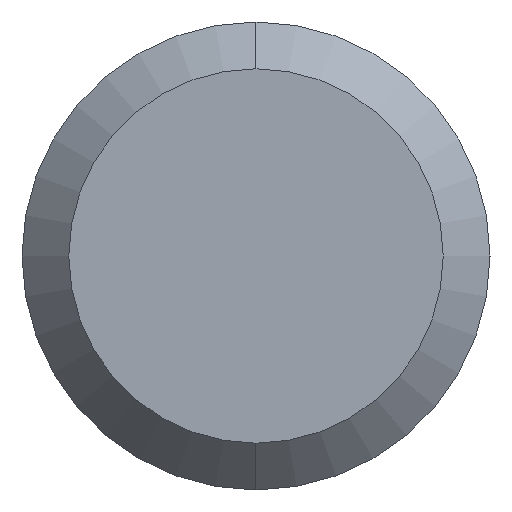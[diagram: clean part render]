
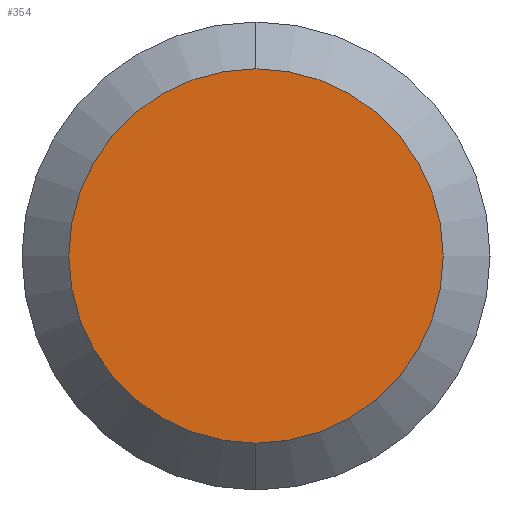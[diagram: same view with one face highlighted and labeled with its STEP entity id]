
A CAD part, left-side view. The second image highlights one B-rep face of the part: STEP entity #354.
In plain terms, the highlighted planar face has unit normal (-1, 0, 0).
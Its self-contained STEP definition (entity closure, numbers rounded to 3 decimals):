
#17 = EDGE_CURVE ( 'NONE', #161, #223, #383, .T. ) ;
#43 = CARTESIAN_POINT ( 'NONE',  ( 0., 0., 1.6 ) ) ;
#51 = FACE_OUTER_BOUND ( 'NONE', #118, .T. ) ;
#69 = ORIENTED_EDGE ( 'NONE', *, *, #485, .T. ) ;
#87 = DIRECTION ( 'NONE',  ( 0., 0., -1. ) ) ;
#102 = CARTESIAN_POINT ( 'NONE',  ( 0., 0., 0. ) ) ;
#118 = EDGE_LOOP ( 'NONE', ( #69, #283 ) ) ;
#139 = DIRECTION ( 'NONE',  ( 0., 0., 1. ) ) ;
#161 = VERTEX_POINT ( 'NONE', #43 ) ;
#180 = CIRCLE ( 'NONE', #451, 1.6 ) ;
#189 = AXIS2_PLACEMENT_3D ( 'NONE', #102, #255, #139 ) ;
#223 = VERTEX_POINT ( 'NONE', #469 ) ;
#234 = CARTESIAN_POINT ( 'NONE',  ( 0., 0., 0. ) ) ;
#255 = DIRECTION ( 'NONE',  ( -1., 0., 0. ) ) ;
#262 = DIRECTION ( 'NONE',  ( 1., 0., 0. ) ) ;
#283 = ORIENTED_EDGE ( 'NONE', *, *, #17, .T. ) ;
#342 = AXIS2_PLACEMENT_3D ( 'NONE', #234, #262, #87 ) ;
#354 = ADVANCED_FACE ( 'NONE', ( #51 ), #457, .F. ) ;
#377 = DIRECTION ( 'NONE',  ( 0., 0., 1. ) ) ;
#383 = CIRCLE ( 'NONE', #189, 1.6 ) ;
#451 = AXIS2_PLACEMENT_3D ( 'NONE', #452, #479, #377 ) ;
#452 = CARTESIAN_POINT ( 'NONE',  ( 0., 0., 0. ) ) ;
#457 = PLANE ( 'NONE',  #342 ) ;
#469 = CARTESIAN_POINT ( 'NONE',  ( 0., 0., -1.6 ) ) ;
#479 = DIRECTION ( 'NONE',  ( -1., 0., 0. ) ) ;
#485 = EDGE_CURVE ( 'NONE', #223, #161, #180, .T. ) ;
